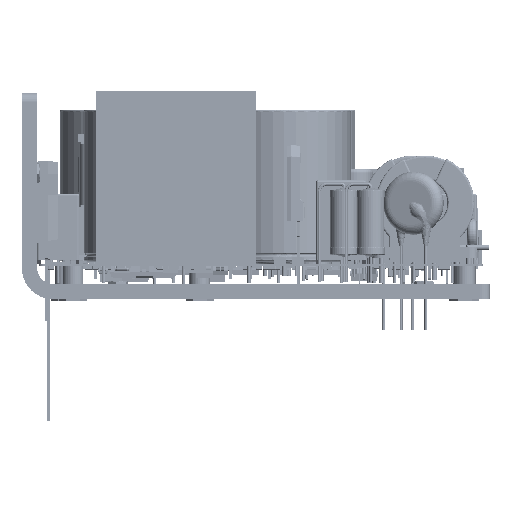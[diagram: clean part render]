
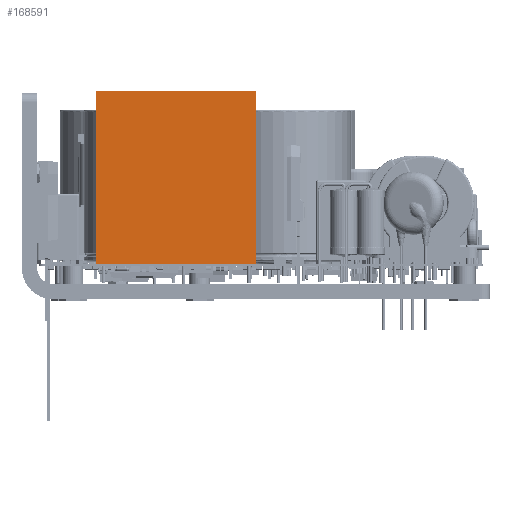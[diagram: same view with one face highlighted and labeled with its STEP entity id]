
A CAD part, left-side view. The second image highlights one B-rep face of the part: STEP entity #168591.
In plain terms, the highlighted planar face has unit normal (-1, 0, 0) as drawn and (0, 1, 0) by its records, which use the part's own axes.
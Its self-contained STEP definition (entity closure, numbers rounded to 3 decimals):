
#168591 = ADVANCED_FACE('',(#168592),#168626,.T.);
#168592 = FACE_BOUND('',#168593,.T.);
#168593 = EDGE_LOOP('',(#168594,#168604,#168612,#168620));
#168594 = ORIENTED_EDGE('',*,*,#168595,.T.);
#168595 = EDGE_CURVE('',#168596,#168598,#168600,.T.);
#168596 = VERTEX_POINT('',#168597);
#168597 = CARTESIAN_POINT('',(-1.95,37.78,0.));
#168598 = VERTEX_POINT('',#168599);
#168599 = CARTESIAN_POINT('',(-1.95,37.78,45.3));
#168600 = LINE('',#168601,#168602);
#168601 = CARTESIAN_POINT('',(-1.95,37.78,0.));
#168602 = VECTOR('',#168603,1.);
#168603 = DIRECTION('',(0.,0.,1.));
#168604 = ORIENTED_EDGE('',*,*,#168605,.T.);
#168605 = EDGE_CURVE('',#168598,#168606,#168608,.T.);
#168606 = VERTEX_POINT('',#168607);
#168607 = CARTESIAN_POINT('',(40.05,37.78,45.3));
#168608 = LINE('',#168609,#168610);
#168609 = CARTESIAN_POINT('',(-1.95,37.78,45.3));
#168610 = VECTOR('',#168611,1.);
#168611 = DIRECTION('',(1.,0.,0.));
#168612 = ORIENTED_EDGE('',*,*,#168613,.F.);
#168613 = EDGE_CURVE('',#168614,#168606,#168616,.T.);
#168614 = VERTEX_POINT('',#168615);
#168615 = CARTESIAN_POINT('',(40.05,37.78,0.));
#168616 = LINE('',#168617,#168618);
#168617 = CARTESIAN_POINT('',(40.05,37.78,0.));
#168618 = VECTOR('',#168619,1.);
#168619 = DIRECTION('',(0.,0.,1.));
#168620 = ORIENTED_EDGE('',*,*,#168621,.F.);
#168621 = EDGE_CURVE('',#168596,#168614,#168622,.T.);
#168622 = LINE('',#168623,#168624);
#168623 = CARTESIAN_POINT('',(-1.95,37.78,0.));
#168624 = VECTOR('',#168625,1.);
#168625 = DIRECTION('',(1.,0.,0.));
#168626 = PLANE('',#168627);
#168627 = AXIS2_PLACEMENT_3D('',#168628,#168629,#168630);
#168628 = CARTESIAN_POINT('',(-1.95,37.78,0.));
#168629 = DIRECTION('',(0.,1.,0.));
#168630 = DIRECTION('',(1.,0.,0.));
